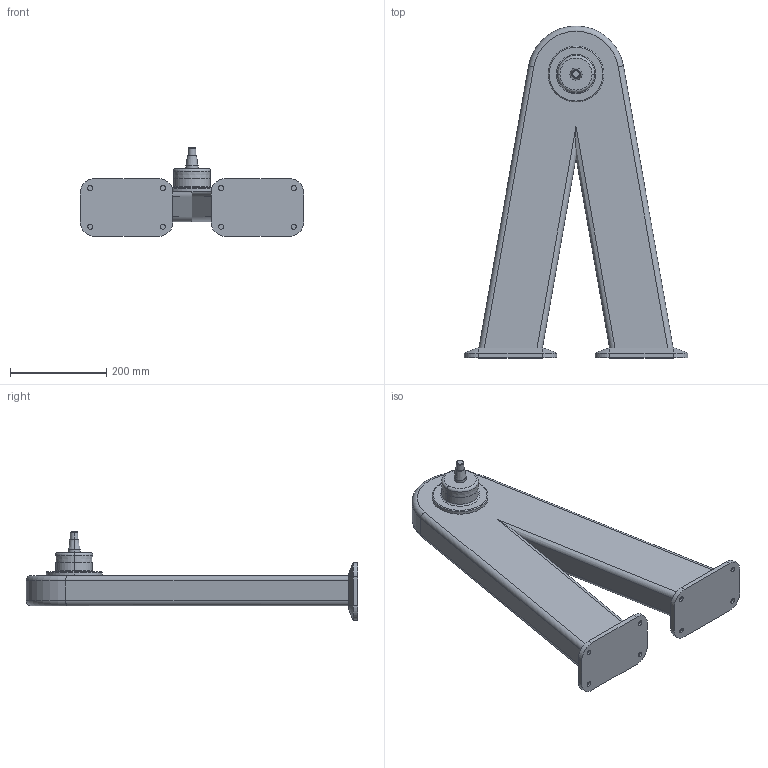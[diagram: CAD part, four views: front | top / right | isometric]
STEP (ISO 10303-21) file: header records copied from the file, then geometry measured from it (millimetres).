
FILE_DESCRIPTION (( 'STEP AP214' ), '1' );
FILE_NAME ('WP850_H590.STEP', '2014-09-08T13:01:03', ( '' ), ( '' ), 'SwSTEP 2.0', 'SolidWorks 2014', '' );
FILE_SCHEMA (( 'AUTOMOTIVE_DESIGN' ));
Length unit declared in the file: millimetre
Products named in the file (1): WP850_H590
Bounding box: 465.09 x 690 x 183.98 mm (x, y, z)
Volume: 11061089.7 mm3; surface area: 545833.5 mm2
Topology: 1 solids, 1 shells, 101 faces, 221 edges, 136 vertices
Faces by surface type: cylinder 41, plane 38, cone 14, torus 8
Entity records: 2795 total; most frequent: DIRECTION 513, CARTESIAN_POINT 489, ORIENTED_EDGE 442, EDGE_CURVE 221, AXIS2_PLACEMENT_3D 200, VERTEX_POINT 136, EDGE_LOOP 115, VECTOR 113
